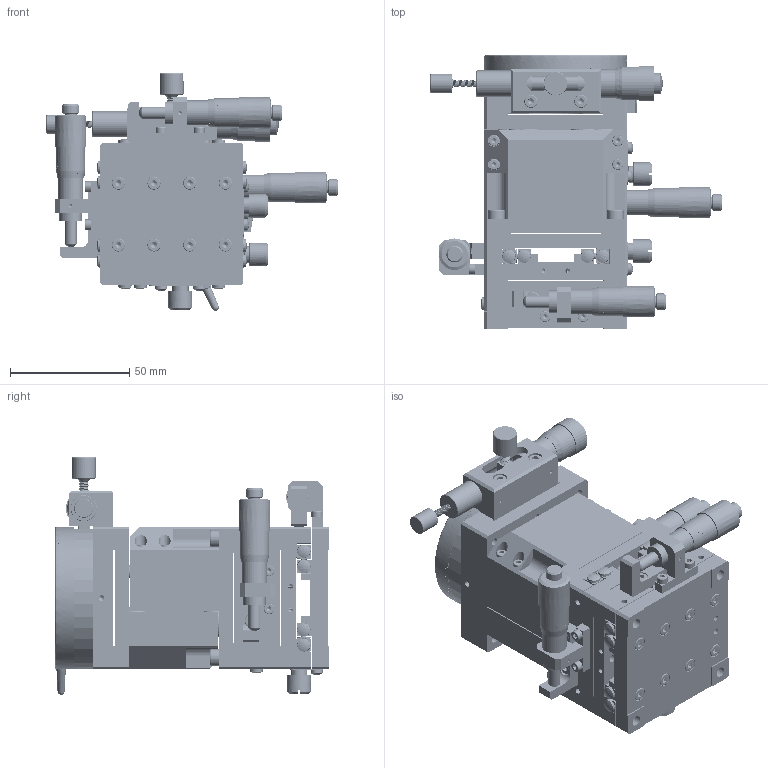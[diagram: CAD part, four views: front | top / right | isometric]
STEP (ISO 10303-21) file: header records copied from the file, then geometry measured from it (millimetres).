
FILE_DESCRIPTION (( 'STEP AP203' ), '1' );
FILE_NAME ('BLT60.STEP', '2024-07-27T07:36:25', ( 'Windows User' ), ( 'P R C' ), 'SwSTEP 2.0', 'SolidWorks 2024', '' );
FILE_SCHEMA (( 'CONFIG_CONTROL_DESIGN' ));
Products named in the file (1): BLT60
Bounding box: 122.3 x 115 x 99.85 mm (x, y, z)
Volume: 356033.5 mm3; surface area: 200292.8 mm2
Topology: 129 solids, 129 shells, 8497 faces, 21871 edges, 14228 vertices
Faces by surface type: bspline 2991, plane 2969, cylinder 1654, cone 801, torus 70, sphere 12
Full cylindrical faces by diameter (mm): 2 x45, 2.05 x53, 2.5 x85, 2.55 x44, 2.6 x3, 2.7 x4, 2.8 x6, 2.9 x6, 2.95 x27, 3 x52, 3.1 x4, 3.2 x4, 3.3 x31, 3.4 x46, 4 x6, 4.3 x1, 4.4 x44, 4.5 x28, 5 x26, 5.2 x1, 5.5 x48, 5.8 x4, 6 x48, 6.35 x2, 7 x13, 8 x13, 8.5 x6, 9 x2, 9.5 x10, 10 x4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
Entity records: 433667 total; most frequent: CARTESIAN_POINT 263343, ORIENTED_EDGE 40368, DIRECTION 23158, EDGE_CURVE 20184, VERTEX_POINT 13798, B_SPLINE_CURVE_WITH_KNOTS 11112, EDGE_LOOP 10946, FACE_OUTER_BOUND 9213
